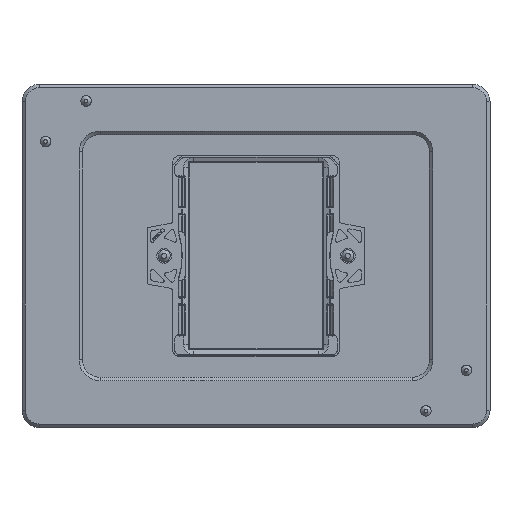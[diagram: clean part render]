
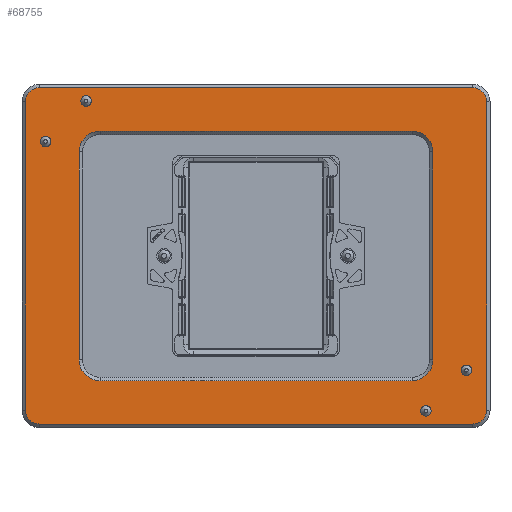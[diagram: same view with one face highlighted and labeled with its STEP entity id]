
A CAD part, top view. The second image highlights one B-rep face of the part: STEP entity #68755.
In plain terms, the highlighted planar face has unit normal (0, 0, 1).
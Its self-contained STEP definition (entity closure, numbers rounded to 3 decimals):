
#2818=CIRCLE('',#102067,1.5);
#2819=CIRCLE('',#102069,1.5);
#2820=CIRCLE('',#102071,1.5);
#2821=CIRCLE('',#102073,1.5);
#2822=CIRCLE('',#102075,4.);
#2823=CIRCLE('',#102076,4.);
#2824=CIRCLE('',#102077,4.);
#2825=CIRCLE('',#102078,4.);
#2826=CIRCLE('',#102079,6.);
#2827=CIRCLE('',#102080,6.);
#2828=CIRCLE('',#102081,6.);
#2829=CIRCLE('',#102082,6.);
#6050=ORIENTED_EDGE('',*,*,#26810,.T.);
#6051=ORIENTED_EDGE('',*,*,#26811,.T.);
#6052=ORIENTED_EDGE('',*,*,#26812,.T.);
#6053=ORIENTED_EDGE('',*,*,#26813,.T.);
#6054=ORIENTED_EDGE('',*,*,#26814,.T.);
#6055=ORIENTED_EDGE('',*,*,#26815,.T.);
#6056=ORIENTED_EDGE('',*,*,#26816,.T.);
#6057=ORIENTED_EDGE('',*,*,#26817,.T.);
#6058=ORIENTED_EDGE('',*,*,#26818,.T.);
#6059=ORIENTED_EDGE('',*,*,#26819,.T.);
#6060=ORIENTED_EDGE('',*,*,#26820,.T.);
#6061=ORIENTED_EDGE('',*,*,#26821,.T.);
#6062=ORIENTED_EDGE('',*,*,#26822,.T.);
#6063=ORIENTED_EDGE('',*,*,#26823,.T.);
#6064=ORIENTED_EDGE('',*,*,#26824,.T.);
#6065=ORIENTED_EDGE('',*,*,#26825,.T.);
#6066=ORIENTED_EDGE('',*,*,#26809,.T.);
#6067=ORIENTED_EDGE('',*,*,#26808,.T.);
#6068=ORIENTED_EDGE('',*,*,#26807,.T.);
#6069=ORIENTED_EDGE('',*,*,#26806,.T.);
#26806=EDGE_CURVE('',#37220,#37220,#2818,.T.);
#26807=EDGE_CURVE('',#37221,#37221,#2819,.T.);
#26808=EDGE_CURVE('',#37222,#37222,#2820,.T.);
#26809=EDGE_CURVE('',#37223,#37223,#2821,.T.);
#26810=EDGE_CURVE('',#37224,#37225,#2822,.T.);
#26811=EDGE_CURVE('',#37225,#37226,#43662,.T.);
#26812=EDGE_CURVE('',#37226,#37227,#2823,.T.);
#26813=EDGE_CURVE('',#37227,#37228,#43663,.T.);
#26814=EDGE_CURVE('',#37228,#37229,#2824,.T.);
#26815=EDGE_CURVE('',#37229,#37230,#43664,.T.);
#26816=EDGE_CURVE('',#37230,#37231,#2825,.T.);
#26817=EDGE_CURVE('',#37231,#37224,#43665,.T.);
#26818=EDGE_CURVE('',#37232,#37233,#2826,.F.);
#26819=EDGE_CURVE('',#37233,#37234,#43666,.T.);
#26820=EDGE_CURVE('',#37234,#37235,#2827,.F.);
#26821=EDGE_CURVE('',#37235,#37236,#43667,.T.);
#26822=EDGE_CURVE('',#37236,#37237,#2828,.F.);
#26823=EDGE_CURVE('',#37237,#37238,#43668,.T.);
#26824=EDGE_CURVE('',#37238,#37239,#2829,.F.);
#26825=EDGE_CURVE('',#37239,#37232,#43669,.T.);
#37220=VERTEX_POINT('',#131630);
#37221=VERTEX_POINT('',#131633);
#37222=VERTEX_POINT('',#131636);
#37223=VERTEX_POINT('',#131639);
#37224=VERTEX_POINT('',#131642);
#37225=VERTEX_POINT('',#131643);
#37226=VERTEX_POINT('',#131645);
#37227=VERTEX_POINT('',#131647);
#37228=VERTEX_POINT('',#131649);
#37229=VERTEX_POINT('',#131651);
#37230=VERTEX_POINT('',#131653);
#37231=VERTEX_POINT('',#131655);
#37232=VERTEX_POINT('',#131658);
#37233=VERTEX_POINT('',#131659);
#37234=VERTEX_POINT('',#131661);
#37235=VERTEX_POINT('',#131663);
#37236=VERTEX_POINT('',#131665);
#37237=VERTEX_POINT('',#131667);
#37238=VERTEX_POINT('',#131669);
#37239=VERTEX_POINT('',#131671);
#43662=LINE('',#131644,#50542);
#43663=LINE('',#131648,#50543);
#43664=LINE('',#131652,#50544);
#43665=LINE('',#131656,#50545);
#43666=LINE('',#131660,#50546);
#43667=LINE('',#131664,#50547);
#43668=LINE('',#131668,#50548);
#43669=LINE('',#131672,#50549);
#50542=VECTOR('',#109832,1000.);
#50543=VECTOR('',#109835,1000.);
#50544=VECTOR('',#109838,1000.);
#50545=VECTOR('',#109841,1000.);
#50546=VECTOR('',#109844,1000.);
#50547=VECTOR('',#109847,1000.);
#50548=VECTOR('',#109850,1000.);
#50549=VECTOR('',#109853,1000.);
#57446=EDGE_LOOP('',(#6050,#6051,#6052,#6053,#6054,#6055,#6056,#6057));
#57447=EDGE_LOOP('',(#6058,#6059,#6060,#6061,#6062,#6063,#6064,#6065));
#57448=EDGE_LOOP('',(#6066));
#57449=EDGE_LOOP('',(#6067));
#57450=EDGE_LOOP('',(#6068));
#57451=EDGE_LOOP('',(#6069));
#62024=FACE_BOUND('',#57446,.T.);
#62025=FACE_BOUND('',#57447,.T.);
#62026=FACE_BOUND('',#57448,.T.);
#62027=FACE_BOUND('',#57449,.T.);
#62028=FACE_BOUND('',#57450,.T.);
#62029=FACE_BOUND('',#57451,.T.);
#66525=PLANE('',#102074);
#68755=ADVANCED_FACE('',(#62024,#62025,#62026,#62027,#62028,#62029),#66525,
 .T.);
#102067=AXIS2_PLACEMENT_3D('',#131629,#109814,#109815);
#102069=AXIS2_PLACEMENT_3D('',#131632,#109818,#109819);
#102071=AXIS2_PLACEMENT_3D('',#131635,#109822,#109823);
#102073=AXIS2_PLACEMENT_3D('',#131638,#109826,#109827);
#102074=AXIS2_PLACEMENT_3D('',#131640,#109828,#109829);
#102075=AXIS2_PLACEMENT_3D('',#131641,#109830,#109831);
#102076=AXIS2_PLACEMENT_3D('',#131646,#109833,#109834);
#102077=AXIS2_PLACEMENT_3D('',#131650,#109836,#109837);
#102078=AXIS2_PLACEMENT_3D('',#131654,#109839,#109840);
#102079=AXIS2_PLACEMENT_3D('',#131657,#109842,#109843);
#102080=AXIS2_PLACEMENT_3D('',#131662,#109845,#109846);
#102081=AXIS2_PLACEMENT_3D('',#131666,#109848,#109849);
#102082=AXIS2_PLACEMENT_3D('',#131670,#109851,#109852);
#109814=DIRECTION('',(0.,0.,-1.));
#109815=DIRECTION('',(0.,-1.,0.));
#109818=DIRECTION('',(0.,0.,-1.));
#109819=DIRECTION('',(0.,-1.,0.));
#109822=DIRECTION('',(0.,0.,-1.));
#109823=DIRECTION('',(0.,-1.,0.));
#109826=DIRECTION('',(0.,0.,-1.));
#109827=DIRECTION('',(0.,-1.,0.));
#109828=DIRECTION('',(0.,0.,1.));
#109829=DIRECTION('',(1.,0.,0.));
#109830=DIRECTION('',(0.,0.,1.));
#109831=DIRECTION('',(1.,0.,0.));
#109832=DIRECTION('',(-1.,0.,0.));
#109833=DIRECTION('',(0.,0.,1.));
#109834=DIRECTION('',(1.,0.,0.));
#109835=DIRECTION('',(0.,-1.,0.));
#109836=DIRECTION('',(0.,0.,1.));
#109837=DIRECTION('',(1.,0.,0.));
#109838=DIRECTION('',(1.,0.,0.));
#109839=DIRECTION('',(0.,0.,1.));
#109840=DIRECTION('',(1.,0.,0.));
#109841=DIRECTION('',(0.,1.,0.));
#109842=DIRECTION('',(0.,0.,1.));
#109843=DIRECTION('',(1.,0.,0.));
#109844=DIRECTION('',(-1.,0.,0.));
#109845=DIRECTION('',(0.,0.,1.));
#109846=DIRECTION('',(1.,0.,0.));
#109847=DIRECTION('',(0.,1.,0.));
#109848=DIRECTION('',(0.,0.,1.));
#109849=DIRECTION('',(1.,0.,0.));
#109850=DIRECTION('',(1.,0.,0.));
#109851=DIRECTION('',(0.,0.,1.));
#109852=DIRECTION('',(1.,0.,0.));
#109853=DIRECTION('',(0.,-1.,0.));
#131629=CARTESIAN_POINT('',(49.,-44.7,28.));
#131630=CARTESIAN_POINT('',(49.,-46.2,28.));
#131632=CARTESIAN_POINT('',(-49.,44.7,28.));
#131633=CARTESIAN_POINT('',(-49.,43.2,28.));
#131635=CARTESIAN_POINT('',(-60.7,33.,28.));
#131636=CARTESIAN_POINT('',(-60.7,31.5,28.));
#131638=CARTESIAN_POINT('',(60.7,-33.,28.));
#131639=CARTESIAN_POINT('',(60.7,-34.5,28.));
#131640=CARTESIAN_POINT('',(-67.5,-49.5,28.));
#131641=CARTESIAN_POINT('',(62.5,44.5,28.));
#131642=CARTESIAN_POINT('',(66.5,44.5,28.));
#131643=CARTESIAN_POINT('',(62.5,48.5,28.));
#131644=CARTESIAN_POINT('',(-62.5,48.5,28.));
#131645=CARTESIAN_POINT('',(-62.5,48.5,28.));
#131646=CARTESIAN_POINT('',(-62.5,44.5,28.));
#131647=CARTESIAN_POINT('',(-66.5,44.5,28.));
#131648=CARTESIAN_POINT('',(-66.5,-44.5,28.));
#131649=CARTESIAN_POINT('',(-66.5,-44.5,28.));
#131650=CARTESIAN_POINT('',(-62.5,-44.5,28.));
#131651=CARTESIAN_POINT('',(-62.5,-48.5,28.));
#131652=CARTESIAN_POINT('',(62.5,-48.5,28.));
#131653=CARTESIAN_POINT('',(62.5,-48.5,28.));
#131654=CARTESIAN_POINT('',(62.5,-44.5,28.));
#131655=CARTESIAN_POINT('',(66.5,-44.5,28.));
#131656=CARTESIAN_POINT('',(66.5,44.5,28.));
#131657=CARTESIAN_POINT('',(45.,-30.,28.));
#131658=CARTESIAN_POINT('',(51.,-30.,28.));
#131659=CARTESIAN_POINT('',(45.,-36.,28.));
#131660=CARTESIAN_POINT('',(-45.,-36.,28.));
#131661=CARTESIAN_POINT('',(-45.,-36.,28.));
#131662=CARTESIAN_POINT('',(-45.,-30.,28.));
#131663=CARTESIAN_POINT('',(-51.,-30.,28.));
#131664=CARTESIAN_POINT('',(-51.,30.,28.));
#131665=CARTESIAN_POINT('',(-51.,30.,28.));
#131666=CARTESIAN_POINT('',(-45.,30.,28.));
#131667=CARTESIAN_POINT('',(-45.,36.,28.));
#131668=CARTESIAN_POINT('',(45.,36.,28.));
#131669=CARTESIAN_POINT('',(45.,36.,28.));
#131670=CARTESIAN_POINT('',(45.,30.,28.));
#131671=CARTESIAN_POINT('',(51.,30.,28.));
#131672=CARTESIAN_POINT('',(51.,-30.,28.));
